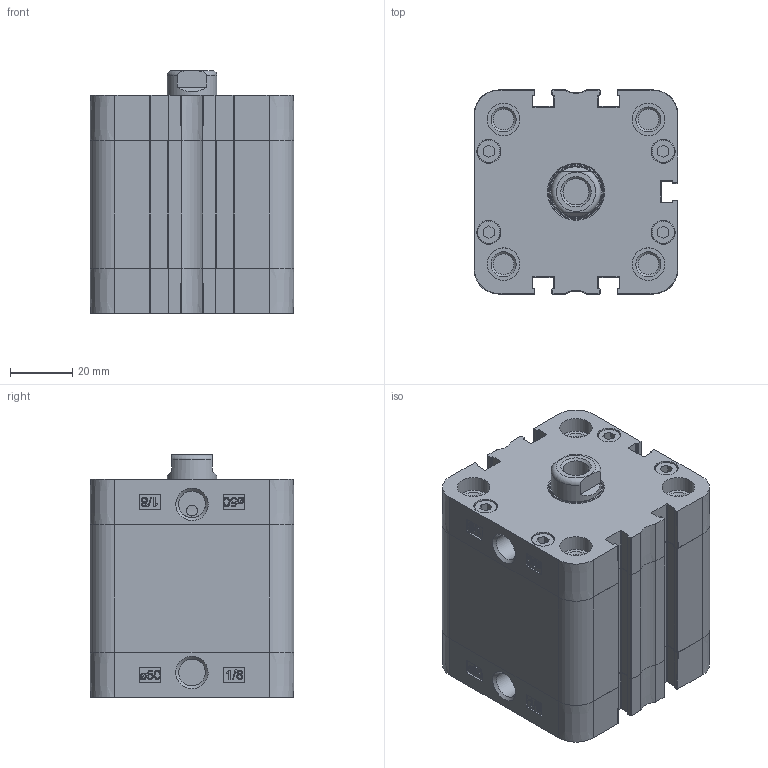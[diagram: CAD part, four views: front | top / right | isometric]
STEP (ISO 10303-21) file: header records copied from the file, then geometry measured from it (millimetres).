
FILE_DESCRIPTION(/* description */ ('Unknown'),/* implementation_level */ '2;1');
FILE_NAME(/* name */ 'ZIN 50_25',/* time_stamp */ '2024-11-12T08:13:38+01:00',/* author */ ('Unknown'),/* organization */ ('HAFNER Pneumatika Kft.'),/* preprocessor_version */ 'ST-DEVELOPER v18.102',/* originating_system */ 'Solid Edge',/* authorisation */ 'Unknown');
FILE_SCHEMA (('AUTOMOTIVE_DESIGN {1 0 10303 214 3 1 1}'));
Length unit declared in the file: millimetre
Products named in the file (5): ZIN 50_25; Profilrohr; Kolbenstange; Kit_2; Kit_1
Assembly tree (4 placements, depth 2):
  ZIN 50_25
    Profilrohr
    Kolbenstange
    Kit_2
    Kit_1
Bounding box: 65.5 x 65.5 x 78 mm (x, y, z)
Volume: 232520.2 mm3; surface area: 63991 mm2
Topology: 4 solids, 12 shells, 731 faces, 1898 edges, 1250 vertices
Faces by surface type: plane 336, cylinder 212, bspline 108, torus 43, cone 32
Full cylindrical faces by diameter (mm): 3.5 x1, 5.2 x8, 6.647 x8, 7.5 x8, 7.7 x8, 8.376 x2, 8.566 x2, 10.5 x8, 12 x1, 16 x1, 16.54 x1, 17.7 x1, 18 x1, 20.5 x1, 50 x2
Entity records: 27380 total; most frequent: CARTESIAN_POINT 5777, ORIENTED_EDGE 3548, DIRECTION 3270, EDGE_CURVE 1774, VERTEX_POINT 1220, AXIS2_PLACEMENT_3D 1127, LINE 1016, VECTOR 1016
